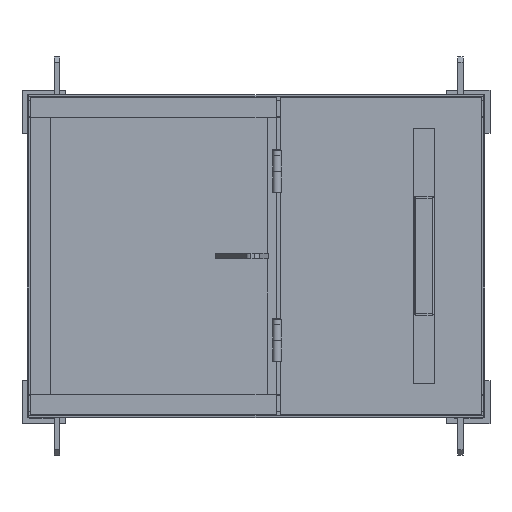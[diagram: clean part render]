
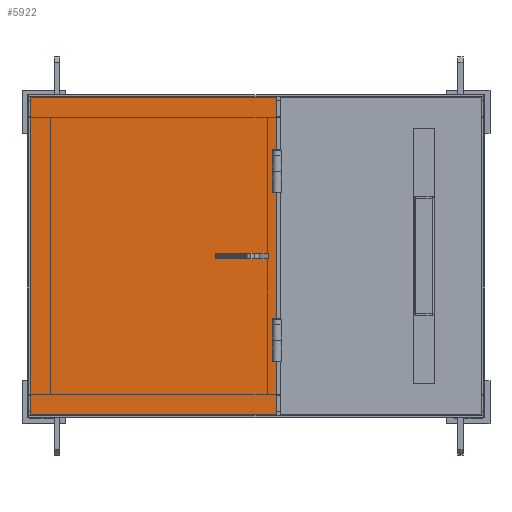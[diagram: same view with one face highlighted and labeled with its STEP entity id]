
A CAD part, top view. The second image highlights one B-rep face of the part: STEP entity #5922.
In plain terms, the highlighted planar face has unit normal (0, 0, 1).
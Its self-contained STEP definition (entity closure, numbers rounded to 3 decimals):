
#5922=ADVANCED_FACE('',(#26197),#26199,.T.);
#26197=FACE_BOUND('',#26198,.T.);
#26198=EDGE_LOOP('',(#31650,#31651,#31652,#31653));
#26199=PLANE('',#26200);
#26200=AXIS2_PLACEMENT_3D('',#26201,#26202,#26203);
#26201=CARTESIAN_POINT('',(-190.,0.,493.));
#26202=DIRECTION('',(0.,0.,1.));
#26203=DIRECTION('',(-1.,0.,0.));
#31650=ORIENTED_EDGE('',*,*,#34961,.T.);
#31651=ORIENTED_EDGE('',*,*,#34965,.T.);
#31652=ORIENTED_EDGE('',*,*,#34968,.T.);
#31653=ORIENTED_EDGE('',*,*,#34970,.T.);
#34961=EDGE_CURVE('',#38061,#38059,#38062,.T.);
#34965=EDGE_CURVE('',#38059,#38066,#38068,.T.);
#34968=EDGE_CURVE('',#38066,#38071,#38073,.T.);
#34970=EDGE_CURVE('',#38071,#38061,#38075,.T.);
#38059=VERTEX_POINT('',#50915);
#38061=VERTEX_POINT('',#50919);
#38062=LINE('',#50920,#50921);
#38066=VERTEX_POINT('',#50930);
#38068=LINE('',#50934,#50935);
#38071=VERTEX_POINT('',#50941);
#38073=LINE('',#50945,#50946);
#38075=LINE('',#50951,#50952);
#50915=CARTESIAN_POINT('',(39.,-294.,493.));
#50919=CARTESIAN_POINT('',(-419.,-294.,493.));
#50920=CARTESIAN_POINT('',(-419.,-294.,493.));
#50921=VECTOR('',#50922,1.);
#50922=DIRECTION('',(1.,0.,0.));
#50930=CARTESIAN_POINT('',(39.,294.,493.));
#50934=CARTESIAN_POINT('',(39.,-294.,493.));
#50935=VECTOR('',#50936,1.);
#50936=DIRECTION('',(0.,1.,0.));
#50941=CARTESIAN_POINT('',(-419.,294.,493.));
#50945=CARTESIAN_POINT('',(39.,294.,493.));
#50946=VECTOR('',#50947,1.);
#50947=DIRECTION('',(-1.,0.,0.));
#50951=CARTESIAN_POINT('',(-419.,294.,493.));
#50952=VECTOR('',#50953,1.);
#50953=DIRECTION('',(0.,-1.,0.));
